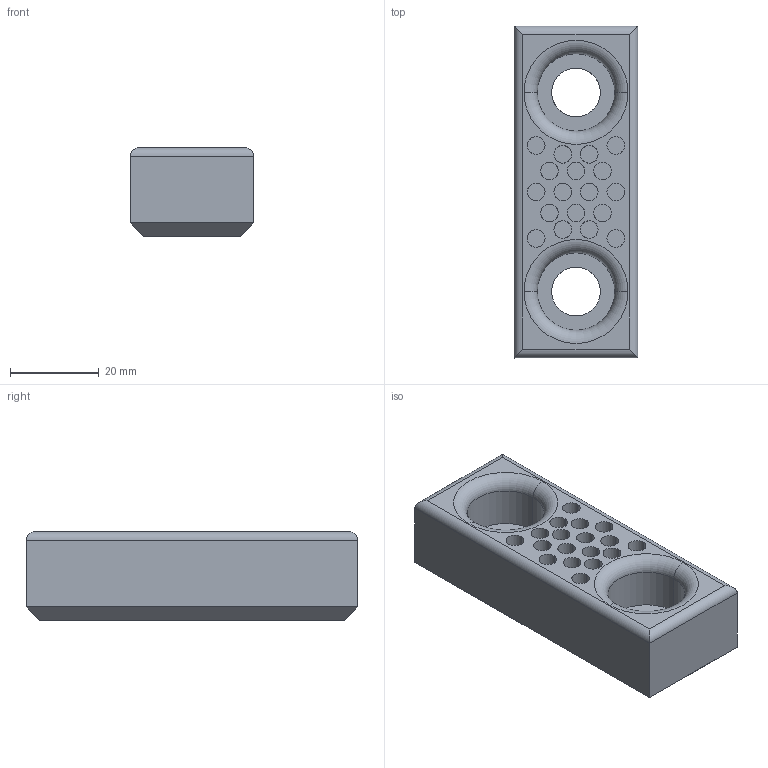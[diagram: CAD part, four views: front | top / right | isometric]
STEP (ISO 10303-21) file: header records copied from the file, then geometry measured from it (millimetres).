
FILE_DESCRIPTION (( 'STEP AP214' ), '1' );
FILE_NAME ('SW224-02-28x75.STEP', '2020-10-19T07:18:32', ( 'August' ), ( '' ), 'SwSTEP 2.0', 'SolidWorks 2018', '' );
FILE_SCHEMA (( 'AUTOMOTIVE_DESIGN' ));
Length unit declared in the file: millimetre
Products named in the file (1): SW224-02-28x75
Bounding box: 28 x 75 x 20 mm (x, y, z)
Volume: 31875.5 mm3; surface area: 10660.8 mm2
Topology: 1 solids, 1 shells, 82 faces, 168 edges, 108 vertices
Faces by surface type: cylinder 48, plane 30, torus 4
Entity records: 2880 total; most frequent: CARTESIAN_POINT 1112, DIRECTION 360, ORIENTED_EDGE 336, EDGE_CURVE 168, AXIS2_PLACEMENT_3D 146, VERTEX_POINT 108, EDGE_LOOP 106, FACE_OUTER_BOUND 82
